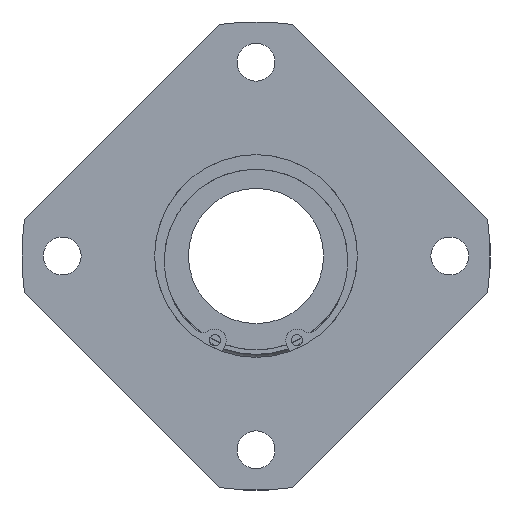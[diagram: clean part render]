
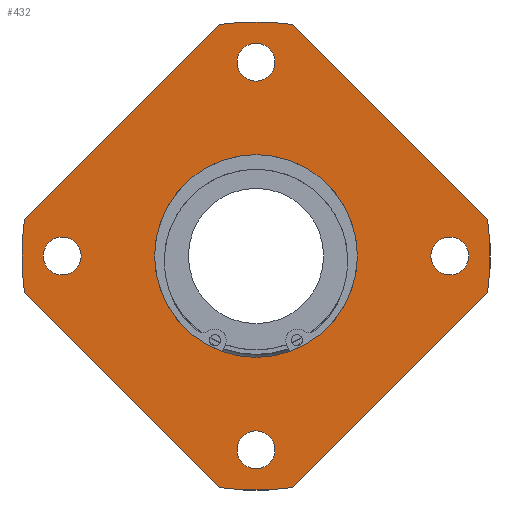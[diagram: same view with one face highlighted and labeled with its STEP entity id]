
A CAD part, left-side view. The second image highlights one B-rep face of the part: STEP entity #432.
In plain terms, the highlighted planar face has unit normal (-1, 0, 0).
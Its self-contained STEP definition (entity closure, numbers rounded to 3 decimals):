
#60=CARTESIAN_POINT('',(0.0,43.,-4.188));
#61=VERTEX_POINT('',#60);
#62=CARTESIAN_POINT('',(0.0,43.,0.));
#63=DIRECTION('',(1.0,0.0,0.0));
#64=DIRECTION('',(0.0,0.0,-1.0));
#65=AXIS2_PLACEMENT_3D('',#62,#63,#64);
#66=CIRCLE('',#65,4.188);
#67=EDGE_CURVE('',#61,#61,#66,.T.);
#88=CARTESIAN_POINT('',(0.0,-4.188,-43.));
#89=VERTEX_POINT('',#88);
#90=CARTESIAN_POINT('',(0.0,0.,-43.));
#91=DIRECTION('',(1.0,0.0,0.0));
#92=DIRECTION('',(0.0,-1.0,0.0));
#93=AXIS2_PLACEMENT_3D('',#90,#91,#92);
#94=CIRCLE('',#93,4.188);
#95=EDGE_CURVE('',#89,#89,#94,.T.);
#116=CARTESIAN_POINT('',(0.0,-43.,4.188));
#117=VERTEX_POINT('',#116);
#118=CARTESIAN_POINT('',(0.0,-43.,0.));
#119=DIRECTION('',(1.0,0.0,0.0));
#120=DIRECTION('',(0.0,0.0,1.0));
#121=AXIS2_PLACEMENT_3D('',#118,#119,#120);
#122=CIRCLE('',#121,4.188);
#123=EDGE_CURVE('',#117,#117,#122,.T.);
#144=CARTESIAN_POINT('',(0.0,4.188,43.));
#145=VERTEX_POINT('',#144);
#146=CARTESIAN_POINT('',(0.0,0.0,43.));
#147=DIRECTION('',(1.0,0.0,0.0));
#148=DIRECTION('',(0.0,1.0,0.0));
#149=AXIS2_PLACEMENT_3D('',#146,#147,#148);
#150=CIRCLE('',#149,4.188);
#151=EDGE_CURVE('',#145,#145,#150,.T.);
#171=CARTESIAN_POINT('',(0.0,8.019,-51.378));
#172=VERTEX_POINT('',#171);
#179=CARTESIAN_POINT('',(0.0,51.378,-8.019));
#180=VERTEX_POINT('',#179);
#181=CARTESIAN_POINT('',(0.0,51.378,-8.019));
#182=DIRECTION('',(0.0,-0.707,-0.707));
#183=VECTOR('',#182,61.319);
#184=LINE('',#181,#183);
#185=EDGE_CURVE('',#180,#172,#184,.T.);
#211=CARTESIAN_POINT('',(0.0,51.378,8.019));
#212=VERTEX_POINT('',#211);
#219=CARTESIAN_POINT('',(0.0,8.019,51.378));
#220=VERTEX_POINT('',#219);
#221=CARTESIAN_POINT('',(0.0,8.019,51.378));
#222=DIRECTION('',(0.0,0.707,-0.707));
#223=VECTOR('',#222,61.319);
#224=LINE('',#221,#223);
#225=EDGE_CURVE('',#220,#212,#224,.T.);
#251=CARTESIAN_POINT('',(0.0,-51.378,-8.019));
#252=VERTEX_POINT('',#251);
#259=CARTESIAN_POINT('',(0.0,-8.019,-51.378));
#260=VERTEX_POINT('',#259);
#261=CARTESIAN_POINT('',(0.0,-8.019,-51.378));
#262=DIRECTION('',(0.0,-0.707,0.707));
#263=VECTOR('',#262,61.319);
#264=LINE('',#261,#263);
#265=EDGE_CURVE('',#260,#252,#264,.T.);
#291=CARTESIAN_POINT('',(0.0,-8.019,51.378));
#292=VERTEX_POINT('',#291);
#299=CARTESIAN_POINT('',(0.0,-51.378,8.019));
#300=VERTEX_POINT('',#299);
#301=CARTESIAN_POINT('',(0.0,-51.378,8.019));
#302=DIRECTION('',(0.0,0.707,0.707));
#303=VECTOR('',#302,61.319);
#304=LINE('',#301,#303);
#305=EDGE_CURVE('',#300,#292,#304,.T.);
#330=CARTESIAN_POINT('',(0.0,0.0,0.0));
#331=DIRECTION('',(-1.0,0.0,0.0));
#332=DIRECTION('',(0.0,0.0,1.0));
#333=AXIS2_PLACEMENT_3D('',#330,#331,#332);
#334=CIRCLE('',#333,52.0);
#335=EDGE_CURVE('',#252,#300,#334,.T.);
#354=CARTESIAN_POINT('',(0.0,0.0,0.0));
#355=DIRECTION('',(-1.0,0.0,0.0));
#356=DIRECTION('',(0.0,0.0,1.0));
#357=AXIS2_PLACEMENT_3D('',#354,#355,#356);
#358=CIRCLE('',#357,52.0);
#359=EDGE_CURVE('',#172,#260,#358,.T.);
#370=CARTESIAN_POINT('',(0.0,0.0,0.0));
#371=DIRECTION('',(-1.0,0.0,0.0));
#372=DIRECTION('',(0.0,0.0,1.0));
#373=AXIS2_PLACEMENT_3D('',#370,#371,#372);
#374=CIRCLE('',#373,52.0);
#375=EDGE_CURVE('',#292,#220,#374,.T.);
#388=CARTESIAN_POINT('',(0.0,0.0,37.25));
#389=DIRECTION('',(-1.0,0.0,0.0));
#390=DIRECTION('',(0.0,0.0,1.0));
#391=AXIS2_PLACEMENT_3D('',#388,#389,#390);
#392=PLANE('',#391);
#393=ORIENTED_EDGE('',*,*,#185,.T.);
#394=ORIENTED_EDGE('',*,*,#359,.T.);
#395=ORIENTED_EDGE('',*,*,#265,.T.);
#396=ORIENTED_EDGE('',*,*,#335,.T.);
#397=ORIENTED_EDGE('',*,*,#305,.T.);
#398=ORIENTED_EDGE('',*,*,#375,.T.);
#399=ORIENTED_EDGE('',*,*,#225,.T.);
#400=CARTESIAN_POINT('',(0.0,0.0,0.0));
#401=DIRECTION('',(-1.0,0.0,0.0));
#402=DIRECTION('',(0.0,0.0,1.0));
#403=AXIS2_PLACEMENT_3D('',#400,#401,#402);
#404=CIRCLE('',#403,52.0);
#405=EDGE_CURVE('',#212,#180,#404,.T.);
#406=ORIENTED_EDGE('',*,*,#405,.T.);
#407=EDGE_LOOP('',(#393,#394,#395,#396,#397,#398,#399,#406));
#408=FACE_OUTER_BOUND('',#407,.T.);
#409=ORIENTED_EDGE('',*,*,#67,.T.);
#410=EDGE_LOOP('',(#409));
#411=FACE_BOUND('',#410,.T.);
#412=ORIENTED_EDGE('',*,*,#95,.T.);
#413=EDGE_LOOP('',(#412));
#414=FACE_BOUND('',#413,.T.);
#415=ORIENTED_EDGE('',*,*,#123,.T.);
#416=EDGE_LOOP('',(#415));
#417=FACE_BOUND('',#416,.T.);
#418=ORIENTED_EDGE('',*,*,#151,.T.);
#419=EDGE_LOOP('',(#418));
#420=FACE_BOUND('',#419,.T.);
#421=CARTESIAN_POINT('',(0.0,0.0,22.5));
#422=VERTEX_POINT('',#421);
#423=CARTESIAN_POINT('',(0.0,0.0,0.0));
#424=DIRECTION('',(-1.0,0.0,0.0));
#425=DIRECTION('',(0.0,0.0,1.0));
#426=AXIS2_PLACEMENT_3D('',#423,#424,#425);
#427=CIRCLE('',#426,22.5);
#428=EDGE_CURVE('',#422,#422,#427,.T.);
#429=ORIENTED_EDGE('',*,*,#428,.F.);
#430=EDGE_LOOP('',(#429));
#431=FACE_BOUND('',#430,.T.);
#432=ADVANCED_FACE('',(#408,#411,#414,#417,#420,#431),#392,.T.);
